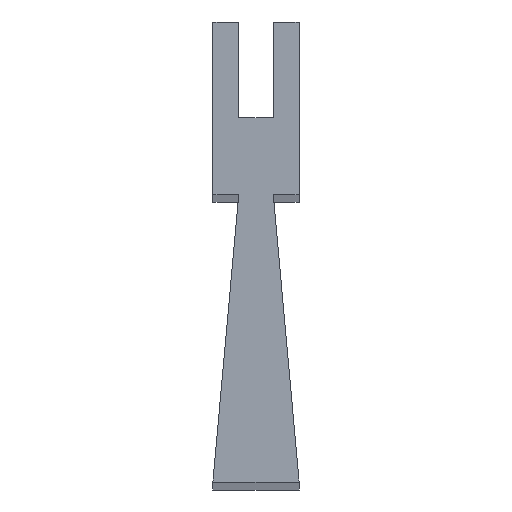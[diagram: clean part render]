
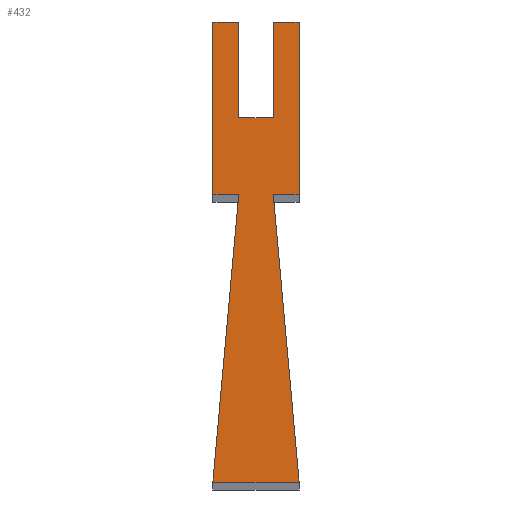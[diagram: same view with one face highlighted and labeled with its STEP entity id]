
A CAD part, top view. The second image highlights one B-rep face of the part: STEP entity #432.
In plain terms, the highlighted planar face has unit normal (0, 0, 1).
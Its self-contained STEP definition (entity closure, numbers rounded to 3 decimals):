
#8 = DIRECTION ( 'NONE',  ( 1., 0., 0. ) ) ;
#19 = AXIS2_PLACEMENT_3D ( 'NONE', #375, #264, #8 ) ;
#24 = LINE ( 'NONE', #48, #388 ) ;
#25 = VECTOR ( 'NONE', #345, 1000. ) ;
#36 = DIRECTION ( 'NONE',  ( -0.09, 0.996, 0. ) ) ;
#37 = LINE ( 'NONE', #102, #177 ) ;
#42 = DIRECTION ( 'NONE',  ( 0., 1., 0. ) ) ;
#44 = DIRECTION ( 'NONE',  ( 1., 0., 0. ) ) ;
#48 = CARTESIAN_POINT ( 'NONE',  ( 1.8, -9., 239. ) ) ;
#59 = CARTESIAN_POINT ( 'NONE',  ( 4.5, -9., 239. ) ) ;
#61 = DIRECTION ( 'NONE',  ( -1., 0., 0. ) ) ;
#65 = DIRECTION ( 'NONE',  ( 0., -1., 0. ) ) ;
#72 = VERTEX_POINT ( 'NONE', #113 ) ;
#75 = VECTOR ( 'NONE', #121, 1000. ) ;
#77 = VERTEX_POINT ( 'NONE', #407 ) ;
#78 = VERTEX_POINT ( 'NONE', #297 ) ;
#79 = ORIENTED_EDGE ( 'NONE', *, *, #404, .T. ) ;
#81 = DIRECTION ( 'NONE',  ( 1., 0., 0. ) ) ;
#92 = EDGE_CURVE ( 'NONE', #106, #366, #128, .T. ) ;
#95 = DIRECTION ( 'NONE',  ( 0., 1., 0. ) ) ;
#98 = CARTESIAN_POINT ( 'NONE',  ( 4.5, -39., 239. ) ) ;
#101 = CARTESIAN_POINT ( 'NONE',  ( -4.5, -39., 239. ) ) ;
#102 = CARTESIAN_POINT ( 'NONE',  ( -4.5, -39., 239. ) ) ;
#105 = EDGE_LOOP ( 'NONE', ( #318, #439, #335, #378, #361, #308, #79, #399, #464, #157, #109, #208 ) ) ;
#106 = VERTEX_POINT ( 'NONE', #116 ) ;
#109 = ORIENTED_EDGE ( 'NONE', *, *, #137, .T. ) ;
#113 = CARTESIAN_POINT ( 'NONE',  ( -4.5, 9., 239. ) ) ;
#116 = CARTESIAN_POINT ( 'NONE',  ( -4.5, -9., 239. ) ) ;
#118 = VECTOR ( 'NONE', #65, 1000. ) ;
#121 = DIRECTION ( 'NONE',  ( -1., 0., 0. ) ) ;
#126 = CARTESIAN_POINT ( 'NONE',  ( -1.8, -1., 239. ) ) ;
#128 = LINE ( 'NONE', #256, #400 ) ;
#137 = EDGE_CURVE ( 'NONE', #145, #216, #301, .T. ) ;
#145 = VERTEX_POINT ( 'NONE', #126 ) ;
#150 = EDGE_CURVE ( 'NONE', #160, #77, #171, .T. ) ;
#157 = ORIENTED_EDGE ( 'NONE', *, *, #170, .T. ) ;
#158 = CARTESIAN_POINT ( 'NONE',  ( -1.8, -9., 239. ) ) ;
#160 = VERTEX_POINT ( 'NONE', #410 ) ;
#170 = EDGE_CURVE ( 'NONE', #456, #145, #334, .T. ) ;
#171 = LINE ( 'NONE', #449, #75 ) ;
#177 = VECTOR ( 'NONE', #314, 1000. ) ;
#187 = CARTESIAN_POINT ( 'NONE',  ( 1.8, -9., 239. ) ) ;
#190 = CARTESIAN_POINT ( 'NONE',  ( 4.5, 9., 239. ) ) ;
#193 = EDGE_CURVE ( 'NONE', #366, #275, #384, .T. ) ;
#206 = CARTESIAN_POINT ( 'NONE',  ( -1.8, -9., 239. ) ) ;
#208 = ORIENTED_EDGE ( 'NONE', *, *, #331, .T. ) ;
#210 = VECTOR ( 'NONE', #36, 1000. ) ;
#214 = EDGE_CURVE ( 'NONE', #72, #106, #240, .T. ) ;
#216 = VERTEX_POINT ( 'NONE', #266 ) ;
#226 = CARTESIAN_POINT ( 'NONE',  ( 1.8, -1., 239. ) ) ;
#228 = LINE ( 'NONE', #390, #313 ) ;
#229 = CARTESIAN_POINT ( 'NONE',  ( -4.5, 9., 239. ) ) ;
#240 = LINE ( 'NONE', #229, #25 ) ;
#246 = VERTEX_POINT ( 'NONE', #59 ) ;
#256 = CARTESIAN_POINT ( 'NONE',  ( -4.5, -9., 239. ) ) ;
#264 = DIRECTION ( 'NONE',  ( 0., 0., 1. ) ) ;
#266 = CARTESIAN_POINT ( 'NONE',  ( -1.8, 9., 239. ) ) ;
#271 = CARTESIAN_POINT ( 'NONE',  ( 1.8, 9., 239. ) ) ;
#275 = VERTEX_POINT ( 'NONE', #101 ) ;
#297 = CARTESIAN_POINT ( 'NONE',  ( 4.5, -39., 239. ) ) ;
#301 = LINE ( 'NONE', #347, #369 ) ;
#306 = VECTOR ( 'NONE', #42, 1000. ) ;
#307 = DIRECTION ( 'NONE',  ( -0.09, -0.996, 0. ) ) ;
#308 = ORIENTED_EDGE ( 'NONE', *, *, #427, .T. ) ;
#312 = FACE_OUTER_BOUND ( 'NONE', #105, .T. ) ;
#313 = VECTOR ( 'NONE', #455, 1000. ) ;
#314 = DIRECTION ( 'NONE',  ( 1., 0., 0. ) ) ;
#315 = EDGE_CURVE ( 'NONE', #77, #456, #381, .T. ) ;
#318 = ORIENTED_EDGE ( 'NONE', *, *, #214, .T. ) ;
#320 = LINE ( 'NONE', #190, #306 ) ;
#321 = VECTOR ( 'NONE', #307, 1000. ) ;
#323 = EDGE_CURVE ( 'NONE', #275, #78, #37, .T. ) ;
#326 = LINE ( 'NONE', #98, #210 ) ;
#331 = EDGE_CURVE ( 'NONE', #216, #72, #228, .T. ) ;
#334 = LINE ( 'NONE', #387, #393 ) ;
#335 = ORIENTED_EDGE ( 'NONE', *, *, #193, .T. ) ;
#345 = DIRECTION ( 'NONE',  ( 0., -1., 0. ) ) ;
#347 = CARTESIAN_POINT ( 'NONE',  ( -1.8, 9., 239. ) ) ;
#360 = EDGE_CURVE ( 'NONE', #78, #429, #326, .T. ) ;
#361 = ORIENTED_EDGE ( 'NONE', *, *, #360, .T. ) ;
#366 = VERTEX_POINT ( 'NONE', #206 ) ;
#369 = VECTOR ( 'NONE', #95, 1000. ) ;
#375 = CARTESIAN_POINT ( 'NONE',  ( -4.5, 9., 239. ) ) ;
#378 = ORIENTED_EDGE ( 'NONE', *, *, #323, .T. ) ;
#381 = LINE ( 'NONE', #271, #118 ) ;
#384 = LINE ( 'NONE', #158, #321 ) ;
#387 = CARTESIAN_POINT ( 'NONE',  ( -1.8, -1., 239. ) ) ;
#388 = VECTOR ( 'NONE', #81, 1000. ) ;
#390 = CARTESIAN_POINT ( 'NONE',  ( -4.5, 9., 239. ) ) ;
#393 = VECTOR ( 'NONE', #61, 1000. ) ;
#399 = ORIENTED_EDGE ( 'NONE', *, *, #150, .T. ) ;
#400 = VECTOR ( 'NONE', #44, 1000. ) ;
#404 = EDGE_CURVE ( 'NONE', #246, #160, #320, .T. ) ;
#407 = CARTESIAN_POINT ( 'NONE',  ( 1.8, 9., 239. ) ) ;
#410 = CARTESIAN_POINT ( 'NONE',  ( 4.5, 9., 239. ) ) ;
#427 = EDGE_CURVE ( 'NONE', #429, #246, #24, .T. ) ;
#429 = VERTEX_POINT ( 'NONE', #187 ) ;
#432 = ADVANCED_FACE ( 'NONE', ( #312 ), #441, .T. ) ;
#439 = ORIENTED_EDGE ( 'NONE', *, *, #92, .T. ) ;
#441 = PLANE ( 'NONE',  #19 ) ;
#449 = CARTESIAN_POINT ( 'NONE',  ( 1.8, 9., 239. ) ) ;
#455 = DIRECTION ( 'NONE',  ( -1., 0., 0. ) ) ;
#456 = VERTEX_POINT ( 'NONE', #226 ) ;
#464 = ORIENTED_EDGE ( 'NONE', *, *, #315, .T. ) ;
